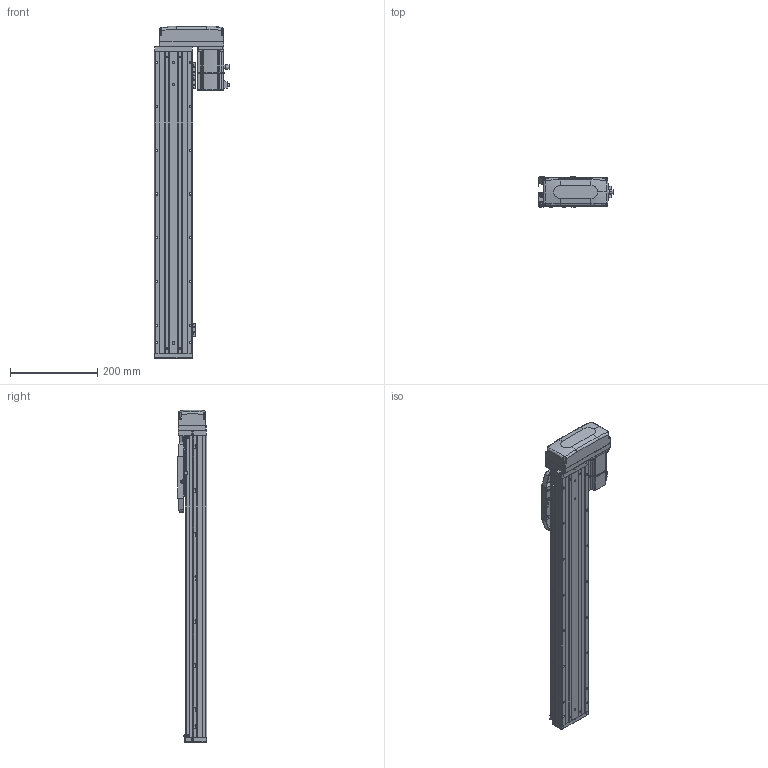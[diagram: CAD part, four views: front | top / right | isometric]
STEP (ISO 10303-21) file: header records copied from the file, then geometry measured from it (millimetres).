
FILE_DESCRIPTION (( 'STEP AP203' ), '1' );
FILE_NAME ('CTHA86-500-BL-M20-C4L.step', '2022-04-26T00:51:33', ( '微软用户' ), ( '微软中国' ), 'SwSTEP 2.0', 'SolidWorks 2020', '' );
FILE_SCHEMA (( 'CONFIG_CONTROL_DESIGN' ));
Length unit declared in the file: millimetre
Products named in the file (21): GBT 70.1-M3×20; CTHA86-031; KTHA86-005; GBT70.1 M5℅16; CTHA86-030; GB¨uT 70.2-M3¡Á5_M3¡Á6; GBT 70.1-M3×16; GBT 70.3-M3℅6; EE_SX911P_R; GBT 70.1-M3℅6; CTHA86-015-1_CTHA86-015-2; CTHA60-017; CTHA60-016; CTHA86-033; CTHA60-021; _X2_4E0983F1_X0_200W_1; CTHA86-500-BL-M20-C4L; KTHA86-001_690; GBT77-2000 M3×3; CTHA86-002; KTHA86-004
Assembly tree (66 placements, depth 2):
  CTHA86-500-BL-M20-C4L
    KTHA86-001_690
    KTHA86-004
    KTHA86-005
    GB¨uT 70.2-M3¡Á5_M3¡Á6  x10
    EE_SX911P_R  x3
    CTHA60-017  x3
    CTHA60-021  x2
    GBT77-2000 M3×3  x6
    GBT 70.1-M3×20
    GBT70.1 M5℅16  x14
    GBT 70.1-M3×16  x5
    GBT 70.1-M3℅6  x6
    CTHA60-016  x2
    _X2_4E0983F1_X0_200W_1
    CTHA86-002
    CTHA86-031
    CTHA86-030  x2
    GBT 70.3-M3℅6  x4
    CTHA86-015-1_CTHA86-015-2
    CTHA86-033
Bounding box: 172.7 x 68 x 759 mm (x, y, z)
Volume: 3120241.9 mm3; surface area: 546054.3 mm2
Topology: 68 solids, 68 shells, 2766 faces, 6596 edges, 4060 vertices
Faces by surface type: plane 1451, cylinder 717, cone 367, torus 132, bspline 75, sphere 24
Entity records: 48435 total; most frequent: CARTESIAN_POINT 9395, DIRECTION 7519, ORIENTED_EDGE 7292, EDGE_CURVE 3646, AXIS2_PLACEMENT_3D 2568, VECTOR 2383, LINE 2383, VERTEX_POINT 2292
